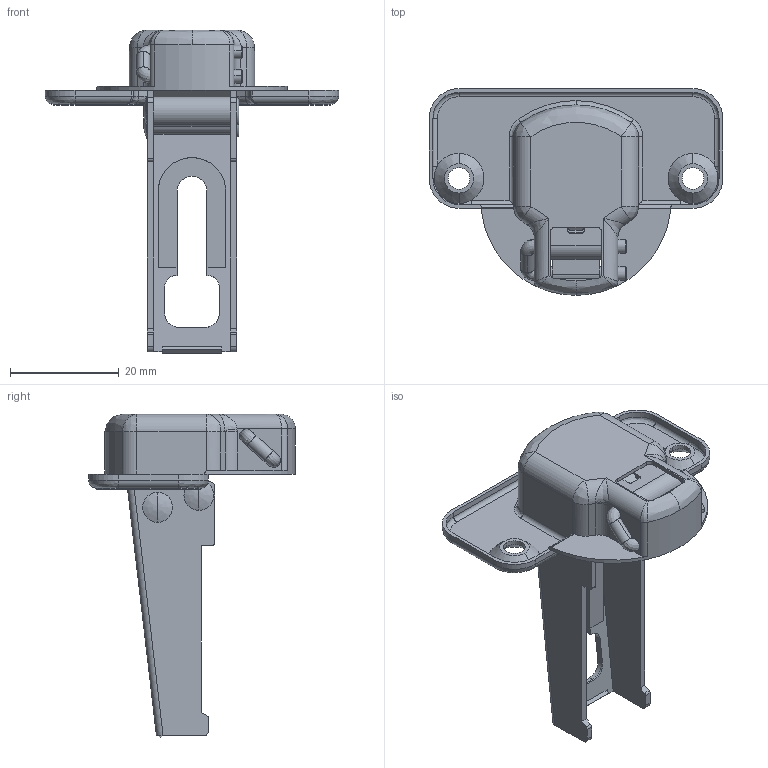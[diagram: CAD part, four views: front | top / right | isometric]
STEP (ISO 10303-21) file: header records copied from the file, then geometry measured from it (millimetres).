
FILE_DESCRIPTION (( 'STEP AP203' ), '1' );
FILE_NAME ('100_46_19_0.STEP', '2013-05-30T05:06:31', ( '' ), ( '' ), 'SwSTEP 2.0', 'SolidWorks 2012', '' );
FILE_SCHEMA (( 'CONFIG_CONTROL_DESIGN' ));
Length unit declared in the file: millimetre
Products named in the file (5): 100_46_19_0; 100SUS_socket; 100SUS_arm_B; 100SUS_arm_A; 100SUS_body_19
Assembly tree (4 placements, depth 2):
  100_46_19_0
    100SUS_body_19
    100SUS_arm_A
    100SUS_arm_B
    100SUS_socket
Bounding box: 54 x 38 x 59.46 mm (x, y, z)
Volume: 5988.7 mm3; surface area: 12514.5 mm2
Topology: 4 solids, 4 shells, 707 faces, 1861 edges, 1165 vertices
Faces by surface type: plane 316, cylinder 177, bspline 168, cone 34, torus 12
Entity records: 30831 total; most frequent: CARTESIAN_POINT 13935, ORIENTED_EDGE 3678, DIRECTION 3002, EDGE_CURVE 1839, VERTEX_POINT 1165, VECTOR 1092, LINE 1092, AXIS2_PLACEMENT_3D 955
